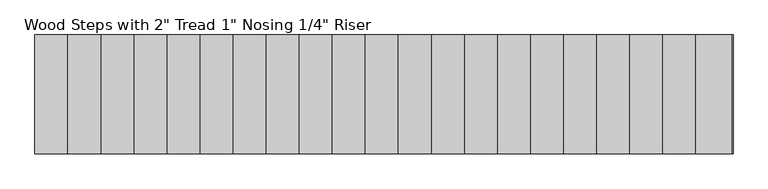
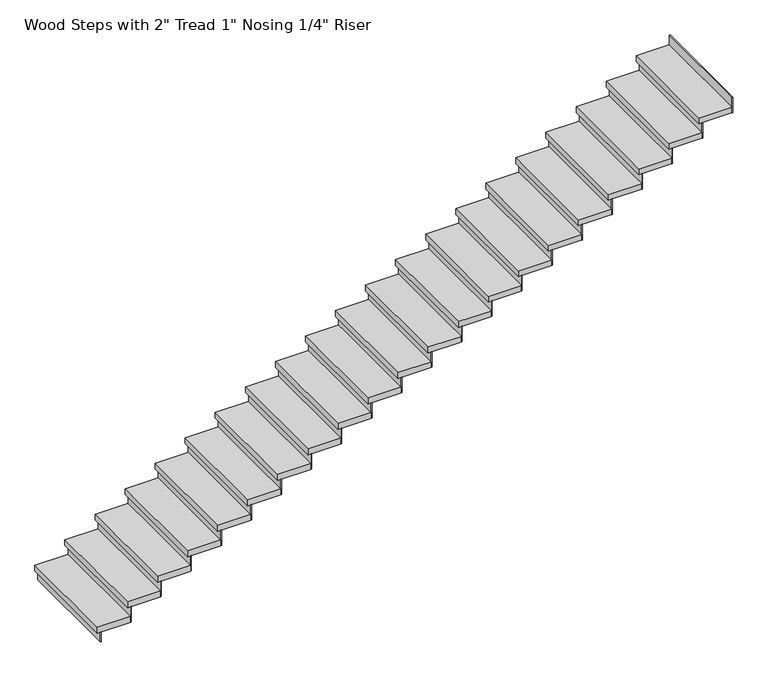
"""IFC4 building model written with IfcOpenShell, lengths in millimetres: stair flight geometry."""

import ifcopenshell
import ifcopenshell.guid

model = None  # the IFC model being written
_history = None  # IfcOwnerHistory: only IFC2X3 demands one
_inside = {}  # id of a spatial element -> (the spatial element, [elements in it])
_under = {}  # id of a project, library or spatial element -> (it, [spatial elements below it])
_declared = {}  # id of a project -> (the project, [libraries it declares])
_typed = {}  # id of a type object -> (the type object, [elements of that type])
_made_of = {}  # id of a material, layer set ... -> (it, [elements and type objects made of it])


def new_model(schema):
    """Start an empty IFC model of exactly this schema.

    Asked for "IFC4X3", IfcOpenShell would pick the latest addendum, in which some entities
    have other attributes; the version numbers below select the first issue.
    IFC2X3 requires an IfcOwnerHistory on every rooted entity: one is made here for all.
    """
    global model, _history
    if schema == "IFC4X3":
        model = ifcopenshell.file(schema_version=(4, 3, 0, 0))
    else:
        model = ifcopenshell.file(schema=schema)
    _inside.clear()
    _under.clear()
    _declared.clear()
    _typed.clear()
    _made_of.clear()
    _history = None
    if model.schema == "IFC2X3":
        org = make("IfcOrganization", Name="unknown")
        user = make(
            "IfcPersonAndOrganization",
            ThePerson=make("IfcPerson", FamilyName="unknown"),
            TheOrganization=org,
        )
        app = make(
            "IfcApplication",
            ApplicationDeveloper=org,
            Version="unknown",
            ApplicationFullName="unknown",
            ApplicationIdentifier="unknown",
        )
        _history = make(
            "IfcOwnerHistory",
            OwningUser=user,
            OwningApplication=app,
            ChangeAction="ADDED",
            CreationDate=0,
        )
    return model


def make(cls, **values):
    """One entity of the class cls with the attributes given. An attribute that is None is left unset."""
    return model.create_entity(
        cls, **{name: value for name, value in values.items() if value is not None}
    )


def rooted(cls, **values):
    """An entity with a GlobalId (a new one), such as an element, a storey or a relation."""
    return make(cls, GlobalId=ifcopenshell.guid.new(), OwnerHistory=_history, **values)


def si_unit(unit_type, name, prefix=None):
    """IfcSIUnit, for example si_unit("LENGTHUNIT", "METRE", prefix="MILLI")."""
    return make("IfcSIUnit", UnitType=unit_type, Prefix=prefix, Name=name)


def assignment(units):
    """IfcUnitAssignment: the units of a project."""
    return None if units is None else make("IfcUnitAssignment", Units=units)


def point(xyz):
    """IfcCartesianPoint."""
    return None if xyz is None else make("IfcCartesianPoint", Coordinates=xyz)


def direction(xyz):
    """IfcDirection."""
    return None if xyz is None else make("IfcDirection", DirectionRatios=xyz)


def frame(location, z_axis=None, x_axis=None):
    """IfcAxis2Placement3D, a coordinate frame: its origin and axes. An axis left out is left unset."""
    return make(
        "IfcAxis2Placement3D",
        Location=point(location),
        Axis=direction(z_axis),
        RefDirection=direction(x_axis),
    )


def origin():
    """The frame at (0, 0, 0) with its axes left unset."""
    return frame((0.0, 0.0, 0.0))


def origin_with_axes():
    """The frame at (0, 0, 0) with the z axis (0, 0, 1) and the x axis (1, 0, 0) written out."""
    return frame((0.0, 0.0, 0.0), z_axis=(0.0, 0.0, 1.0), x_axis=(1.0, 0.0, 0.0))


def place(relative_to, where):
    """IfcLocalPlacement: puts the frame where relative to a parent placement (None: the world)."""
    return make(
        "IfcLocalPlacement", PlacementRelTo=relative_to, RelativePlacement=where
    )


def context(
    kind, dimensions, precision=None, world=None, true_north=None, identifier=None
):
    """IfcGeometricRepresentationContext, for example the 3D "Model" context."""
    return make(
        "IfcGeometricRepresentationContext",
        ContextIdentifier=identifier,
        ContextType=kind,
        CoordinateSpaceDimension=dimensions,
        Precision=precision,
        WorldCoordinateSystem=world,
        TrueNorth=true_north,
    )


def project(units=None, contexts=None):
    """IfcProject with its units and contexts."""
    return rooted(
        "IfcProject",
        Name="project",
        RepresentationContexts=contexts,
        UnitsInContext=assignment(units),
    )


def spatial(cls, under=None, at=None, **own):
    """A site, building, storey or space (cls), placed at a placement, below another one or the project."""
    s = rooted(cls, ObjectPlacement=at, **own)
    if under is not None:
        _under.setdefault(under.id(), (under, []))[1].append(s)
    return s


def polyline(points):
    """IfcPolyline through the points."""
    return make("IfcPolyline", Points=[point(p) for p in points])


def outline(outer, holes=None, kind="AREA"):
    """IfcArbitraryClosedProfileDef: a profile drawn as a closed curve; with holes, ...WithVoids."""
    if holes is None:
        return make("IfcArbitraryClosedProfileDef", ProfileType=kind, OuterCurve=outer)
    return make(
        "IfcArbitraryProfileDefWithVoids",
        ProfileType=kind,
        OuterCurve=outer,
        InnerCurves=holes,
    )


def extrude(swept, where, along, depth):
    """IfcExtrudedAreaSolid: the profile swept, set in the frame where, extruded along a direction by depth."""
    return make(
        "IfcExtrudedAreaSolid",
        SweptArea=swept,
        Position=where,
        ExtrudedDirection=direction(along),
        Depth=depth,
    )


def shape(context_of_items, identifier, shape_type, items):
    """IfcShapeRepresentation: the items that make up one representation, for example the "Body"."""
    return make(
        "IfcShapeRepresentation",
        ContextOfItems=context_of_items,
        RepresentationIdentifier=identifier,
        RepresentationType=shape_type,
        Items=items,
    )


def source(mapping_origin, context_of_items, identifier, shape_type, items):
    """IfcRepresentationMap: a shape defined once, which mapped items show again and again."""
    return make(
        "IfcRepresentationMap",
        MappingOrigin=mapping_origin,
        MappedRepresentation=shape(context_of_items, identifier, shape_type, items),
    )


def transform(
    local_origin,
    x_axis=None,
    y_axis=None,
    z_axis=None,
    scale=None,
    scale2=None,
    scale3=None,
    uniform=True,
):
    """IfcCartesianTransformationOperator3D, or its non-uniform kind. x_axis, y_axis, z_axis: its Axis1, 2, 3."""
    if uniform:
        return make(
            "IfcCartesianTransformationOperator3D",
            Axis1=direction(x_axis),
            Axis2=direction(y_axis),
            LocalOrigin=point(local_origin),
            Scale=scale,
            Axis3=direction(z_axis),
        )
    return make(
        "IfcCartesianTransformationOperator3DnonUniform",
        Axis1=direction(x_axis),
        Axis2=direction(y_axis),
        LocalOrigin=point(local_origin),
        Scale=scale,
        Axis3=direction(z_axis),
        Scale2=scale2,
        Scale3=scale3,
    )


def mapped(mapping_source, mapping_target):
    """IfcMappedItem: shows the shape of a source again, moved by a transform."""
    return make(
        "IfcMappedItem", MappingSource=mapping_source, MappingTarget=mapping_target
    )


def made_of(thing, what):
    """Note that an element or type object is made of a material, layer set ...; save() writes the relation."""
    if what is not None:
        _made_of.setdefault(what.id(), (what, []))[1].append(thing)
    return thing


def element(
    cls,
    number,
    at=None,
    inside=None,
    cuts=None,
    type_object=None,
    material=None,
    context=None,
    identifier="Body",
    shape_type=None,
    held_by="IfcProductDefinitionShape",
    body=None,
    shapes=None,
    **own,
):
    """One element of the class cls, such as IfcWall. Its Tag is "e" and its number.

    at: its placement. inside: the storey or other place that contains it. cuts: it is an
    opening in that element (IfcRelVoidsElement). A single representation is given by context,
    identifier, shape_type and body (its items); several are given by shapes. held_by: the class
    of the entity that holds the representations. save() writes the other relations.
    """
    e = rooted(cls, Tag="e%d" % number, ObjectPlacement=at, **own)
    if body is not None:
        shapes = [shape(context, identifier, shape_type, body)]
    if shapes is not None:
        e.Representation = make(held_by, Representations=shapes)
    if inside is not None:
        _inside.setdefault(inside.id(), (inside, []))[1].append(e)
    if cuts is not None:
        rooted(
            "IfcRelVoidsElement", RelatingBuildingElement=cuts, RelatedOpeningElement=e
        )
    if type_object is not None:
        _typed.setdefault(type_object.id(), (type_object, []))[1].append(e)
    return made_of(e, material)


def aggregate(whole, parts):
    """IfcRelAggregates: a whole, such as a stair, and the parts it consists of."""
    return rooted("IfcRelAggregates", RelatingObject=whole, RelatedObjects=parts)


def save(model, path):
    """Write the relations noted so far, then the file.

    IfcRelAggregates (storeys below a building ...), IfcRelContainedInSpatialStructure (elements
    in a storey), IfcRelDefinesByType, IfcRelAssociatesMaterial and IfcRelDeclares: one each for
    every whole, place, type object, material and project.
    """
    for whole, parts in _under.values():
        aggregate(whole, parts)
    for where, things in _inside.values():
        rooted(
            "IfcRelContainedInSpatialStructure",
            RelatedElements=things,
            RelatingStructure=where,
        )
    for kind, things in _typed.values():
        rooted("IfcRelDefinesByType", RelatedObjects=things, RelatingType=kind)
    for what, things in _made_of.values():
        rooted("IfcRelAssociatesMaterial", RelatedObjects=things, RelatingMaterial=what)
    for by, libraries in _declared.values():
        rooted("IfcRelDeclares", RelatingContext=by, RelatedDefinitions=libraries)
    model.write(path)


def stair_flight_9f840bb6(model_context):
    return source(origin(), model_context, "Body", "SweptSolid", [
        extrude(outline(polyline([(12164.4114578, 6638.322839), (12158.0614578, 6638.322839), (12158.0614578, 7552.722839), (12164.4114578, 7552.722839), (12164.4114578, 6638.322839)])), origin_with_axes(), (0.0, 0.0, 1.0), 87.7454545),
        extrude(outline(polyline([(12412.0614578, 7552.722839), (12412.0614578, 6638.322839), (12132.6614578, 6638.322839), (12132.6614578, 7552.722839), (12412.0614578, 7552.722839)])), frame((0.0, 0.0, 87.7454545), z_axis=(0.0, 0.0, 1.0), x_axis=(1.0, 0.0, 0.0)), (0.0, 0.0, 1.0), 50.8),
        extrude(outline(polyline([(12418.4114578, 6638.322839), (12412.0614578, 6638.322839), (12412.0614578, 7552.722839), (12418.4114578, 7552.722839), (12418.4114578, 6638.322839)])), frame((0.0, 0.0, 87.7454545), z_axis=(0.0, 0.0, 1.0), x_axis=(1.0, 0.0, 0.0)), (0.0, 0.0, 1.0), 138.5454545),
        extrude(outline(polyline([(12666.0614578, 7552.722839), (12666.0614578, 6638.322839), (12386.6614578, 6638.322839), (12386.6614578, 7552.722839), (12666.0614578, 7552.722839)])), frame((0.0, 0.0, 226.2909091), z_axis=(0.0, 0.0, 1.0), x_axis=(1.0, 0.0, 0.0)), (0.0, 0.0, 1.0), 50.8),
        extrude(outline(polyline([(12672.4114578, 6638.322839), (12666.0614578, 6638.322839), (12666.0614578, 7552.722839), (12672.4114578, 7552.722839), (12672.4114578, 6638.322839)])), frame((0.0, 0.0, 226.2909091), z_axis=(0.0, 0.0, 1.0), x_axis=(1.0, 0.0, 0.0)), (0.0, 0.0, 1.0), 138.5454545),
        extrude(outline(polyline([(12920.0614578, 7552.722839), (12920.0614578, 6638.322839), (12640.6614578, 6638.322839), (12640.6614578, 7552.722839), (12920.0614578, 7552.722839)])), frame((0.0, 0.0, 364.8363636), z_axis=(0.0, 0.0, 1.0), x_axis=(1.0, 0.0, 0.0)), (0.0, 0.0, 1.0), 50.8),
        extrude(outline(polyline([(12926.4114578, 6638.322839), (12920.0614578, 6638.322839), (12920.0614578, 7552.722839), (12926.4114578, 7552.722839), (12926.4114578, 6638.322839)])), frame((0.0, 0.0, 364.8363636), z_axis=(0.0, 0.0, 1.0), x_axis=(1.0, 0.0, 0.0)), (0.0, 0.0, 1.0), 138.5454545),
        extrude(outline(polyline([(13174.0614578, 7552.722839), (13174.0614578, 6638.322839), (12894.6614578, 6638.322839), (12894.6614578, 7552.722839), (13174.0614578, 7552.722839)])), frame((0.0, 0.0, 503.3818182), z_axis=(0.0, 0.0, 1.0), x_axis=(1.0, 0.0, 0.0)), (0.0, 0.0, 1.0), 50.8),
        extrude(outline(polyline([(13180.4114578, 6638.322839), (13174.0614578, 6638.322839), (13174.0614578, 7552.722839), (13180.4114578, 7552.722839), (13180.4114578, 6638.322839)])), frame((0.0, 0.0, 503.3818182), z_axis=(0.0, 0.0, 1.0), x_axis=(1.0, 0.0, 0.0)), (0.0, 0.0, 1.0), 138.5454545),
        extrude(outline(polyline([(13428.0614578, 7552.722839), (13428.0614578, 6638.322839), (13148.6614578, 6638.322839), (13148.6614578, 7552.722839), (13428.0614578, 7552.722839)])), frame((0.0, 0.0, 641.9272727), z_axis=(0.0, 0.0, 1.0), x_axis=(1.0, 0.0, 0.0)), (0.0, 0.0, 1.0), 50.8),
        extrude(outline(polyline([(13434.4114578, 6638.322839), (13428.0614578, 6638.322839), (13428.0614578, 7552.722839), (13434.4114578, 7552.722839), (13434.4114578, 6638.322839)])), frame((0.0, 0.0, 641.9272727), z_axis=(0.0, 0.0, 1.0), x_axis=(1.0, 0.0, 0.0)), (0.0, 0.0, 1.0), 138.5454545),
        extrude(outline(polyline([(13682.0614578, 7552.722839), (13682.0614578, 6638.322839), (13402.6614578, 6638.322839), (13402.6614578, 7552.722839), (13682.0614578, 7552.722839)])), frame((0.0, 0.0, 780.4727273), z_axis=(0.0, 0.0, 1.0), x_axis=(1.0, 0.0, 0.0)), (0.0, 0.0, 1.0), 50.8),
        extrude(outline(polyline([(13688.4114578, 6638.322839), (13682.0614578, 6638.322839), (13682.0614578, 7552.722839), (13688.4114578, 7552.722839), (13688.4114578, 6638.322839)])), frame((0.0, 0.0, 780.4727273), z_axis=(0.0, 0.0, 1.0), x_axis=(1.0, 0.0, 0.0)), (0.0, 0.0, 1.0), 138.5454545),
        extrude(outline(polyline([(13936.0614578, 7552.722839), (13936.0614578, 6638.322839), (13656.6614578, 6638.322839), (13656.6614578, 7552.722839), (13936.0614578, 7552.722839)])), frame((0.0, 0.0, 919.0181818), z_axis=(0.0, 0.0, 1.0), x_axis=(1.0, 0.0, 0.0)), (0.0, 0.0, 1.0), 50.8),
        extrude(outline(polyline([(13942.4114578, 6638.322839), (13936.0614578, 6638.322839), (13936.0614578, 7552.722839), (13942.4114578, 7552.722839), (13942.4114578, 6638.322839)])), frame((0.0, 0.0, 919.0181818), z_axis=(0.0, 0.0, 1.0), x_axis=(1.0, 0.0, 0.0)), (0.0, 0.0, 1.0), 138.5454545),
        extrude(outline(polyline([(14190.0614578, 7552.722839), (14190.0614578, 6638.322839), (13910.6614578, 6638.322839), (13910.6614578, 7552.722839), (14190.0614578, 7552.722839)])), frame((0.0, 0.0, 1057.5636364), z_axis=(0.0, 0.0, 1.0), x_axis=(1.0, 0.0, 0.0)), (0.0, 0.0, 1.0), 50.8),
        extrude(outline(polyline([(14196.4114578, 6638.322839), (14190.0614578, 6638.322839), (14190.0614578, 7552.722839), (14196.4114578, 7552.722839), (14196.4114578, 6638.322839)])), frame((0.0, 0.0, 1057.5636364), z_axis=(0.0, 0.0, 1.0), x_axis=(1.0, 0.0, 0.0)), (0.0, 0.0, 1.0), 138.5454545),
        extrude(outline(polyline([(14444.0614578, 7552.722839), (14444.0614578, 6638.322839), (14164.6614578, 6638.322839), (14164.6614578, 7552.722839), (14444.0614578, 7552.722839)])), frame((0.0, 0.0, 1196.1090909), z_axis=(0.0, 0.0, 1.0), x_axis=(1.0, 0.0, 0.0)), (0.0, 0.0, 1.0), 50.8),
        extrude(outline(polyline([(14450.4114578, 6638.322839), (14444.0614578, 6638.322839), (14444.0614578, 7552.722839), (14450.4114578, 7552.722839), (14450.4114578, 6638.322839)])), frame((0.0, 0.0, 1196.1090909), z_axis=(0.0, 0.0, 1.0), x_axis=(1.0, 0.0, 0.0)), (0.0, 0.0, 1.0), 138.5454545),
        extrude(outline(polyline([(14698.0614578, 7552.722839), (14698.0614578, 6638.322839), (14418.6614578, 6638.322839), (14418.6614578, 7552.722839), (14698.0614578, 7552.722839)])), frame((0.0, 0.0, 1334.6545455), z_axis=(0.0, 0.0, 1.0), x_axis=(1.0, 0.0, 0.0)), (0.0, 0.0, 1.0), 50.8),
        extrude(outline(polyline([(14704.4114578, 6638.322839), (14698.0614578, 6638.322839), (14698.0614578, 7552.722839), (14704.4114578, 7552.722839), (14704.4114578, 6638.322839)])), frame((0.0, 0.0, 1334.6545455), z_axis=(0.0, 0.0, 1.0), x_axis=(1.0, 0.0, 0.0)), (0.0, 0.0, 1.0), 138.5454545),
        extrude(outline(polyline([(14952.0614578, 7552.722839), (14952.0614578, 6638.322839), (14672.6614578, 6638.322839), (14672.6614578, 7552.722839), (14952.0614578, 7552.722839)])), frame((0.0, 0.0, 1473.2), z_axis=(0.0, 0.0, 1.0), x_axis=(1.0, 0.0, 0.0)), (0.0, 0.0, 1.0), 50.8),
        extrude(outline(polyline([(14958.4114578, 6638.322839), (14952.0614578, 6638.322839), (14952.0614578, 7552.722839), (14958.4114578, 7552.722839), (14958.4114578, 6638.322839)])), frame((0.0, 0.0, 1473.2), z_axis=(0.0, 0.0, 1.0), x_axis=(1.0, 0.0, 0.0)), (0.0, 0.0, 1.0), 138.5454545),
        extrude(outline(polyline([(15206.0614578, 7552.722839), (15206.0614578, 6638.322839), (14926.6614578, 6638.322839), (14926.6614578, 7552.722839), (15206.0614578, 7552.722839)])), frame((0.0, 0.0, 1611.7454545), z_axis=(0.0, 0.0, 1.0), x_axis=(1.0, 0.0, 0.0)), (0.0, 0.0, 1.0), 50.8),
        extrude(outline(polyline([(15212.4114578, 6638.322839), (15206.0614578, 6638.322839), (15206.0614578, 7552.722839), (15212.4114578, 7552.722839), (15212.4114578, 6638.322839)])), frame((0.0, 0.0, 1611.7454545), z_axis=(0.0, 0.0, 1.0), x_axis=(1.0, 0.0, 0.0)), (0.0, 0.0, 1.0), 138.5454545),
        extrude(outline(polyline([(15460.0614578, 7552.722839), (15460.0614578, 6638.322839), (15180.6614578, 6638.322839), (15180.6614578, 7552.722839), (15460.0614578, 7552.722839)])), frame((0.0, 0.0, 1750.2909091), z_axis=(0.0, 0.0, 1.0), x_axis=(1.0, 0.0, 0.0)), (0.0, 0.0, 1.0), 50.8),
        extrude(outline(polyline([(15466.4114578, 6638.322839), (15460.0614578, 6638.322839), (15460.0614578, 7552.722839), (15466.4114578, 7552.722839), (15466.4114578, 6638.322839)])), frame((0.0, 0.0, 1750.2909091), z_axis=(0.0, 0.0, 1.0), x_axis=(1.0, 0.0, 0.0)), (0.0, 0.0, 1.0), 138.5454545),
        extrude(outline(polyline([(15714.0614578, 7552.722839), (15714.0614578, 6638.322839), (15434.6614578, 6638.322839), (15434.6614578, 7552.722839), (15714.0614578, 7552.722839)])), frame((0.0, 0.0, 1888.8363636), z_axis=(0.0, 0.0, 1.0), x_axis=(1.0, 0.0, 0.0)), (0.0, 0.0, 1.0), 50.8),
        extrude(outline(polyline([(15720.4114578, 6638.322839), (15714.0614578, 6638.322839), (15714.0614578, 7552.722839), (15720.4114578, 7552.722839), (15720.4114578, 6638.322839)])), frame((0.0, 0.0, 1888.8363636), z_axis=(0.0, 0.0, 1.0), x_axis=(1.0, 0.0, 0.0)), (0.0, 0.0, 1.0), 138.5454545),
        extrude(outline(polyline([(15968.0614578, 7552.722839), (15968.0614578, 6638.322839), (15688.6614578, 6638.322839), (15688.6614578, 7552.722839), (15968.0614578, 7552.722839)])), frame((0.0, 0.0, 2027.3818182), z_axis=(0.0, 0.0, 1.0), x_axis=(1.0, 0.0, 0.0)), (0.0, 0.0, 1.0), 50.8),
        extrude(outline(polyline([(15974.4114578, 6638.322839), (15968.0614578, 6638.322839), (15968.0614578, 7552.722839), (15974.4114578, 7552.722839), (15974.4114578, 6638.322839)])), frame((0.0, 0.0, 2027.3818182), z_axis=(0.0, 0.0, 1.0), x_axis=(1.0, 0.0, 0.0)), (0.0, 0.0, 1.0), 138.5454545),
        extrude(outline(polyline([(16222.0614578, 7552.722839), (16222.0614578, 6638.322839), (15942.6614578, 6638.322839), (15942.6614578, 7552.722839), (16222.0614578, 7552.722839)])), frame((0.0, 0.0, 2165.9272727), z_axis=(0.0, 0.0, 1.0), x_axis=(1.0, 0.0, 0.0)), (0.0, 0.0, 1.0), 50.8),
        extrude(outline(polyline([(16228.4114578, 6638.322839), (16222.0614578, 6638.322839), (16222.0614578, 7552.722839), (16228.4114578, 7552.722839), (16228.4114578, 6638.322839)])), frame((0.0, 0.0, 2165.9272727), z_axis=(0.0, 0.0, 1.0), x_axis=(1.0, 0.0, 0.0)), (0.0, 0.0, 1.0), 138.5454545),
        extrude(outline(polyline([(16476.0614578, 7552.722839), (16476.0614578, 6638.322839), (16196.6614578, 6638.322839), (16196.6614578, 7552.722839), (16476.0614578, 7552.722839)])), frame((0.0, 0.0, 2304.4727273), z_axis=(0.0, 0.0, 1.0), x_axis=(1.0, 0.0, 0.0)), (0.0, 0.0, 1.0), 50.8),
        extrude(outline(polyline([(16482.4114578, 6638.322839), (16476.0614578, 6638.322839), (16476.0614578, 7552.722839), (16482.4114578, 7552.722839), (16482.4114578, 6638.322839)])), frame((0.0, 0.0, 2304.4727273), z_axis=(0.0, 0.0, 1.0), x_axis=(1.0, 0.0, 0.0)), (0.0, 0.0, 1.0), 138.5454545),
        extrude(outline(polyline([(16730.0614578, 7552.722839), (16730.0614578, 6638.322839), (16450.6614578, 6638.322839), (16450.6614578, 7552.722839), (16730.0614578, 7552.722839)])), frame((0.0, 0.0, 2443.0181818), z_axis=(0.0, 0.0, 1.0), x_axis=(1.0, 0.0, 0.0)), (0.0, 0.0, 1.0), 50.8),
        extrude(outline(polyline([(16736.4114578, 6638.322839), (16730.0614578, 6638.322839), (16730.0614578, 7552.722839), (16736.4114578, 7552.722839), (16736.4114578, 6638.322839)])), frame((0.0, 0.0, 2443.0181818), z_axis=(0.0, 0.0, 1.0), x_axis=(1.0, 0.0, 0.0)), (0.0, 0.0, 1.0), 138.5454545),
        extrude(outline(polyline([(16984.0614578, 7552.722839), (16984.0614578, 6638.322839), (16704.6614578, 6638.322839), (16704.6614578, 7552.722839), (16984.0614578, 7552.722839)])), frame((0.0, 0.0, 2581.5636364), z_axis=(0.0, 0.0, 1.0), x_axis=(1.0, 0.0, 0.0)), (0.0, 0.0, 1.0), 50.8),
        extrude(outline(polyline([(16990.4114578, 6638.322839), (16984.0614578, 6638.322839), (16984.0614578, 7552.722839), (16990.4114578, 7552.722839), (16990.4114578, 6638.322839)])), frame((0.0, 0.0, 2581.5636364), z_axis=(0.0, 0.0, 1.0), x_axis=(1.0, 0.0, 0.0)), (0.0, 0.0, 1.0), 138.5454545),
        extrude(outline(polyline([(17238.0614578, 7552.722839), (17238.0614578, 6638.322839), (16958.6614578, 6638.322839), (16958.6614578, 7552.722839), (17238.0614578, 7552.722839)])), frame((0.0, 0.0, 2720.1090909), z_axis=(0.0, 0.0, 1.0), x_axis=(1.0, 0.0, 0.0)), (0.0, 0.0, 1.0), 50.8),
        extrude(outline(polyline([(17244.4114578, 6638.322839), (17238.0614578, 6638.322839), (17238.0614578, 7552.722839), (17244.4114578, 7552.722839), (17244.4114578, 6638.322839)])), frame((0.0, 0.0, 2720.1090909), z_axis=(0.0, 0.0, 1.0), x_axis=(1.0, 0.0, 0.0)), (0.0, 0.0, 1.0), 138.5454545),
        extrude(outline(polyline([(17498.4114578, 6638.322839), (17492.0614578, 6638.322839), (17492.0614578, 7552.722839), (17498.4114578, 7552.722839), (17498.4114578, 6638.322839)])), frame((0.0, 0.0, 2858.6545455), z_axis=(0.0, 0.0, 1.0), x_axis=(1.0, 0.0, 0.0)), (0.0, 0.0, 1.0), 138.5454545),
        extrude(outline(polyline([(17492.0614578, 7552.722839), (17492.0614578, 6638.322839), (17212.6614578, 6638.322839), (17212.6614578, 7552.722839), (17492.0614578, 7552.722839)])), frame((0.0, 0.0, 2858.6545455), z_axis=(0.0, 0.0, 1.0), x_axis=(1.0, 0.0, 0.0)), (0.0, 0.0, 1.0), 50.8),
    ])


if __name__ == "__main__":
    model = new_model("IFC4")
    model_context = context("Model", 3, world=origin())
    ifc_project = project(units=[si_unit("LENGTHUNIT", "METRE", prefix="MILLI")], contexts=[model_context])
    site = spatial("IfcSite", under=ifc_project)
    building = spatial("IfcBuilding", under=site)
    placement = place(None, origin())
    stair_flight_shape = stair_flight_9f840bb6(model_context)
    element("IfcStairFlight", 1, ObjectType="Wood Steps with 2\" Tread 1\" Nosing 1/4\" Riser", at=placement, inside=building, context=model_context, shape_type="MappedRepresentation", body=[
        mapped(stair_flight_shape, transform((0.0, 0.0, 0.0), x_axis=(1.0, 0.0, 0.0), y_axis=(0.0, 1.0, 0.0), z_axis=(0.0, 0.0, 1.0))),
    ])
    save(model, "model.ifc")
